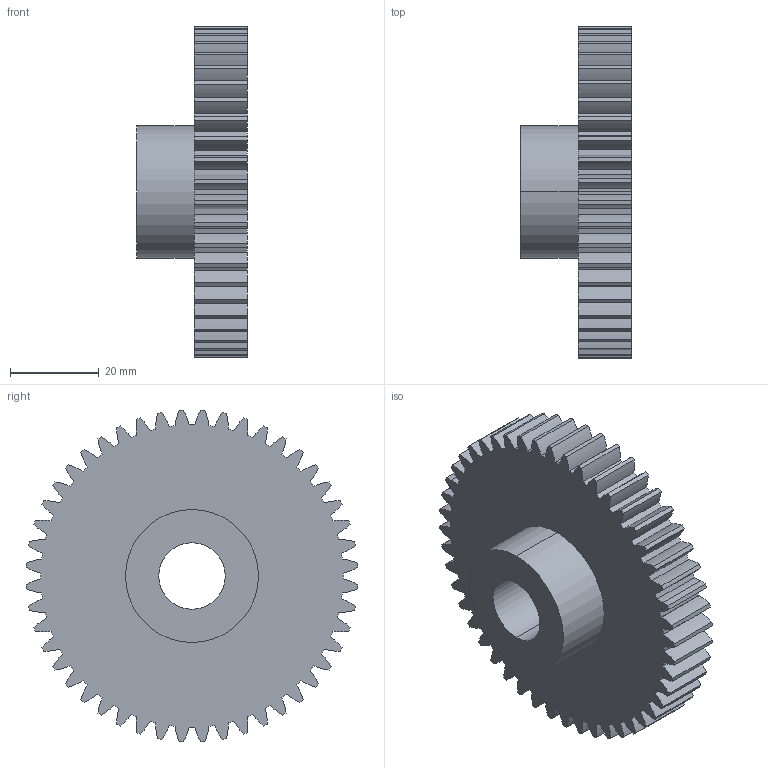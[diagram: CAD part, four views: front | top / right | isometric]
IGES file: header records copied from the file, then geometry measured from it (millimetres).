
Start section: 3D InterOp IGES (v. 2020 1.0.1), Spatial Corp. Copyright (c) 1999-2017.
Global section: file name: p15_w12_t48_b.igs; native system: Spatial Corp.; preprocessor: 3D InterOp ACIS/IGES; author: TraceParts; organization: TraceParts S.A.; date: 20220624.033544; units: millimetre
Bounding box: 25 x 74.9 x 74.9 mm (x, y, z)
Surface area: 15528.4 mm2 (no closed solid volume)
Topology: 0 solids, 0 shells, 209 faces, 1236 edges, 1236 vertices
Faces by surface type: revolution 206, extrusion 3
